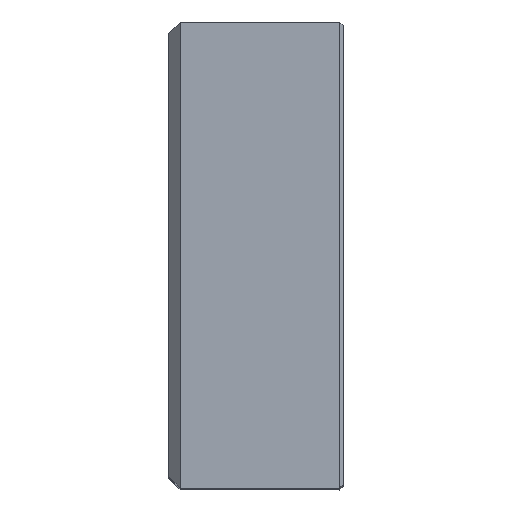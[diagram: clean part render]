
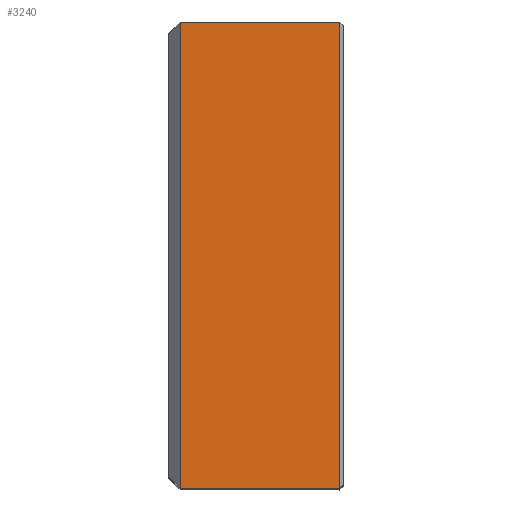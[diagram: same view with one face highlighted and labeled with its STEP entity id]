
A CAD part, top view. The second image highlights one B-rep face of the part: STEP entity #3240.
In plain terms, the highlighted planar face has unit normal (0, 0, 1).
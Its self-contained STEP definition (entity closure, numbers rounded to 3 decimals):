
#283=VERTEX_POINT(' ',#284);
#284=CARTESIAN_POINT('',(44.,-60.,0.));
#293=VERTEX_POINT(' ',#294);
#294=CARTESIAN_POINT('',(44.,60.,0.));
#327=VERTEX_POINT(' ',#328);
#328=CARTESIAN_POINT('',(3.,-60.,0.));
#335=VERTEX_POINT(' ',#336);
#336=CARTESIAN_POINT('',(3.,60.,0.));
#1509=LINE('',#1510,#1511);
#1510=CARTESIAN_POINT('',(44.,65.657,0.));
#1511=VECTOR('',#1512,1.);
#1512=DIRECTION('',(0.,-1.,0.));
#1513=EDGE_CURVE(' ',#293,#283,#1509,.T.);
#1673=LINE('',#1674,#1675);
#1674=CARTESIAN_POINT('',(45.12,-60.,0.));
#1675=VECTOR('',#1676,1.);
#1676=DIRECTION('',(-1.,0.,0.));
#1677=EDGE_CURVE(' ',#283,#327,#1673,.T.);
#1712=LINE('',#1713,#1714);
#1713=CARTESIAN_POINT('',(3.,-73.971,0.));
#1714=VECTOR('',#1715,1.);
#1715=DIRECTION('',(0.,1.,0.));
#1716=EDGE_CURVE(' ',#327,#335,#1712,.T.);
#1717=LINE('',#1718,#1719);
#1718=CARTESIAN_POINT('',(45.12,60.,0.));
#1719=VECTOR('',#1720,1.);
#1720=DIRECTION('',(-1.,0.,0.));
#1721=EDGE_CURVE(' ',#293,#335,#1717,.T.);
#3229=ORIENTED_EDGE('',*,*,#1716,.F.);
#3230=ORIENTED_EDGE('',*,*,#1677,.F.);
#3231=ORIENTED_EDGE('',*,*,#1513,.F.);
#3232=ORIENTED_EDGE('',*,*,#1721,.T.);
#3233=EDGE_LOOP('',(#3229,#3230,#3231,#3232));
#3234=FACE_OUTER_BOUND('',#3233,.T.);
#3235=PLANE('',#3236);
#3236=AXIS2_PLACEMENT_3D('',#3237,#3238,#3239);
#3237=CARTESIAN_POINT('',(0.,-60.,0.));
#3238=DIRECTION('',(0.,0.,1.));
#3239=DIRECTION('',(0.,1.,0.));
#3240=ADVANCED_FACE('',(#3234),#3235,.T.);
